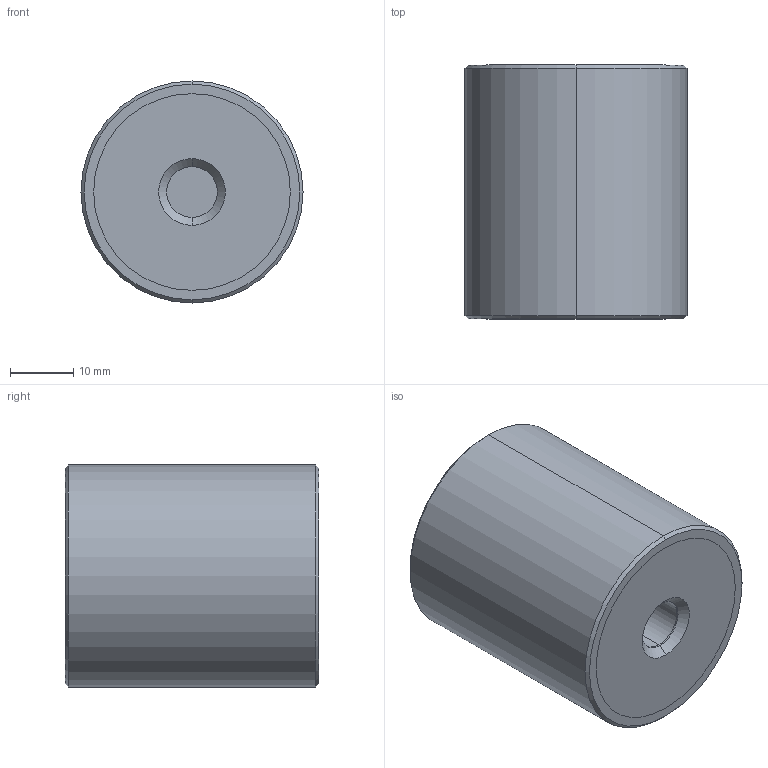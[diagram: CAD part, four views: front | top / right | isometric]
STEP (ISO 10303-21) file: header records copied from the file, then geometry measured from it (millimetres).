
FILE_DESCRIPTION (( 'STEP AP203' ), '1' );
FILE_NAME ('61080.W0351.step', '2018-07-16T20:44:18', ( '' ), ( '' ), 'SwSTEP 2.0', 'SolidWorks 2017', '' );
FILE_SCHEMA (( 'CONFIG_CONTROL_DESIGN' ));
Length unit declared in the file: millimetre
Products named in the file (4): Part1_61080.W0351; Part3_61080.W0351; 61080.W0351; Part2_61080.W0351
Assembly tree (3 placements, depth 2):
  61080.W0351
    Part1_61080.W0351
    Part2_61080.W0351
    Part3_61080.W0351
Bounding box: 35 x 40 x 35 mm (x, y, z)
Volume: 37609.7 mm3; surface area: 10029.1 mm2
Topology: 3 solids, 3 shells, 36 faces, 70 edges, 44 vertices
Faces by surface type: cylinder 18, plane 10, cone 8
Entity records: 1356 total; most frequent: DIRECTION 198, CARTESIAN_POINT 156, ORIENTED_EDGE 140, AXIS2_PLACEMENT_3D 86, EDGE_CURVE 70, EDGE_LOOP 44, VERTEX_POINT 44, CIRCLE 44
